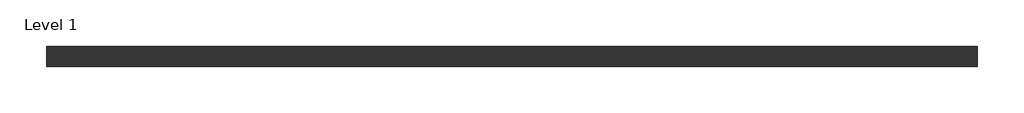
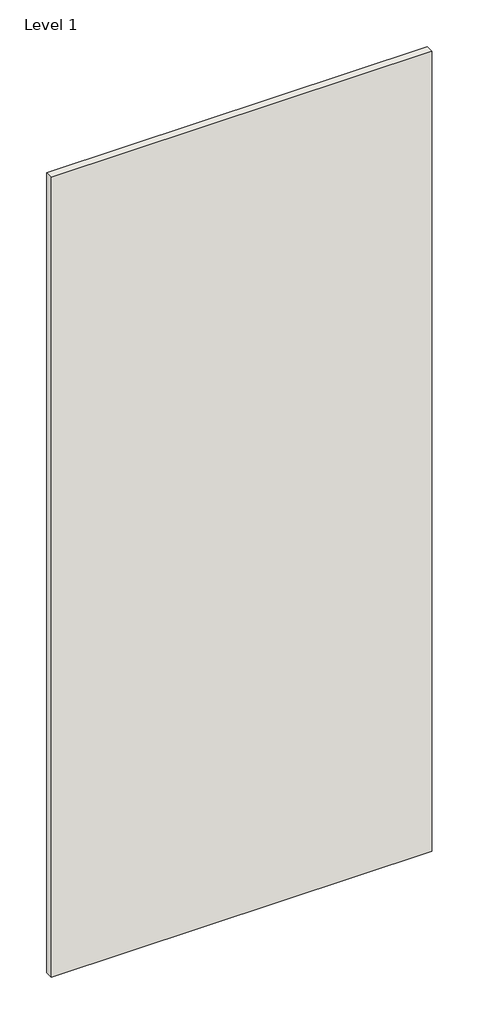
# One storey: 1 wall.
"""IFC4 building model written with IfcOpenShell, lengths in millimetres."""

from ifc_helpers import new_model, si_unit, origin, origin_with_axes, place, context, project, spatial, polyline, outline, extrude, element, save

model = new_model("IFC4")

# Units and contexts
model_context = context("Model", 3, world=origin())
ifc_project = project(units=[si_unit("LENGTHUNIT", "METRE", prefix="MILLI")], contexts=[model_context])

# Site, building, storey
site = spatial("IfcSite", under=ifc_project)
building = spatial("IfcBuilding", under=site)
storey = spatial("IfcBuildingStorey", under=building, Name="Level 1", Elevation=0.0)

# Wall
placement = place(None, origin())
element("IfcWall", 1, ObjectType="Interior-Steel Frame-Laminated Services-CSR7705-39mm", at=placement, inside=storey, context=model_context, shape_type="SweptSolid", body=[
    extrude(outline(polyline([(-269.8509895, -2564.9893507), (1530.1490105, -2564.9893507), (1530.1490105, -2603.9893507), (-269.8509895, -2603.9893507), (-269.8509895, -2564.9893507)])), origin_with_axes(), (0.0, 0.0, 1.0), 4000.0),
])

save(model, "model.ifc")
